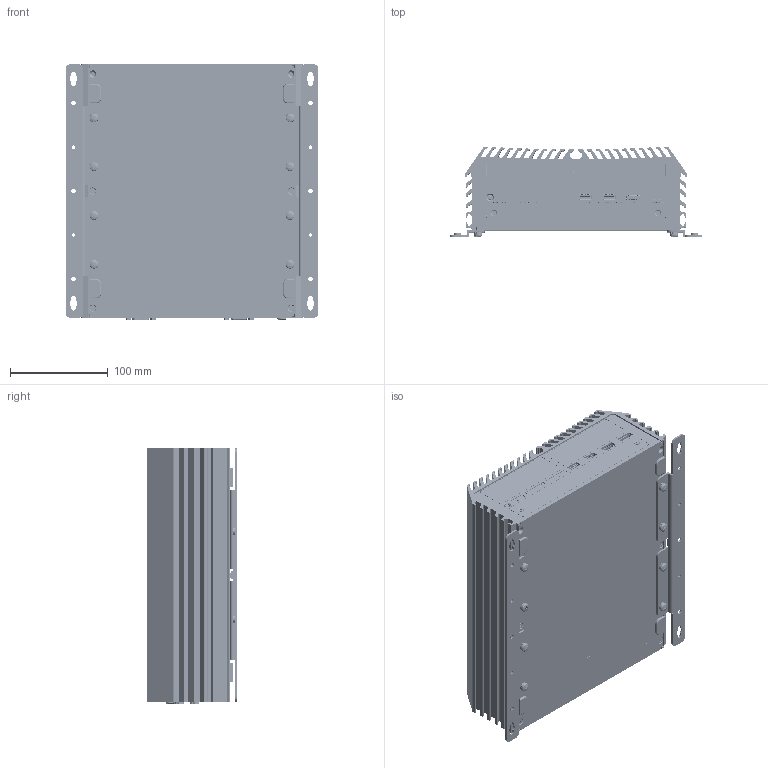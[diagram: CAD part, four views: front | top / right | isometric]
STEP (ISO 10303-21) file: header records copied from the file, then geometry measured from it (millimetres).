
FILE_DESCRIPTION (( 'STEP AP214' ), '1' );
FILE_NAME ('1-DS-1500-¼Ð·Ç-20250203-¥~Æ[.STEP', '2025-04-18T10:05:52', ( '' ), ( '' ), 'SwSTEP 2.0', 'SolidWorks 2014', '' );
FILE_SCHEMA (( 'AUTOMOTIVE_DESIGN' ));
Length unit declared in the file: millimetre
Products named in the file (40): Screw-耐落-沙拉-90-星型-T10-黑-M3x8(M3-N103082260); Screw-耐落-沙拉-120-十字-M3X4(M3-N103042010)_M3*4; DS-MEC KIT-Universal Bracket(M1-ZZZZ3613001); DS-1500-Main Board asm-20250203; DS-1300-Rear Bezel(M1-407130034100)-20200311; DS-100X-Top Cover-銅管(M0-ZZZZ17C0000); Screw-沙拉-120-星型-T10+E型扣-黑-M3x13(M3-1103132270+M3-402004050415); 導熱膏B; Screw-耐落-沙拉-120-星型-T10-黑-M3x5(M3-N103052230); D330H1SL72211DD0; WHDM-19FLBSDR; Rubber Foot Shore(M4-RUFT0100001); 23-D0351500040_CN1_ECHB350R-04P; 23-D0341500040_FAN2_ECH350R_3P_1LAYER; Screw-丸頭-十字-耐落-SW-M5x6(M3-SCREAB00001); 導熱膏A; 23-D0341500030_DC_IN1_5EHDRM-03P_8; DS-1500-PCBA-ASM-20250203; AUTIO_2IN1; Top Cover(M1-407120006300)-DS-1200-金金-20181015; USB-3.0-SMT-T.H(122-0921NX0504); DS-1200-Bottom Cover(M1-407120011200)-20180821; DS-Wall Mount Bracket(M1-ZZZZ3611004); DS-1200-Top Cover asm-金金-20180402; Hole Plugs(M4-RUBR0100004)-M06V0; DS-1300-Front Bezel(M1-407130024100)-20200311; 1-DS-1500-標準-20250203-外觀; USB3.1-2+RJ45-JFM48U1B-BA04(2.5G)(23-D0572300320); DS-1200-Front Bezel Matching Bezel(M1-407120084100); DS-100X-Top Cover-銅管固定片(M1-ZZZZ4600000)-展煜-金金; USB3.0-2L+RJ45-JFM38U1B-B313-4F(23-D0202300320); 23-D0242300200_DP1_DISPLAYPORT; PWR_BTN_TC003; 銅柱-4-4OUNC-4.8_11.8H(M3-COSD6L00000)東莞?輝; D20H1P1PA1X2A111N2 (3D); 23-D0351500040_CN2_MINIDIN_USBX2; DS-1500-Front Open Bezel(M1-407150084100); DS-1200-Bottom Cover asm-20200406; Screw-丸頭-十字-外齒-M5x8(M3-SCREAB00002); DS-1300-Front Bezel-symbol_panel(M0-ZZZZ5C30009)-20200923
Assembly tree (79 placements, depth 4):
  1-DS-1500-標準-20250203-外觀
    DS-1500-PCBA-ASM-20250203
      DS-1500-Main Board asm-20250203
        23-D0351500040_CN1_ECHB350R-04P
        AUTIO_2IN1
        D20H1P1PA1X2A111N2 (3D)
        23-D0351500040_CN2_MINIDIN_USBX2
        D330H1SL72211DD0
        23-D0242300200_DP1_DISPLAYPORT  x2
        23-D0341500040_FAN2_ECH350R_3P_1LAYER
        23-D0341500030_DC_IN1_5EHDRM-03P_8
        PWR_BTN_TC003
        USB-3.0-SMT-T.H(122-0921NX0504)  x2
        WHDM-19FLBSDR
        USB3.0-2L+RJ45-JFM38U1B-B313-4F(23-D0202300320)
        USB3.1-2+RJ45-JFM48U1B-BA04(2.5G)(23-D0572300320)
    DS-1300-Front Bezel(M1-407130024100)-20200311
    DS-1300-Front Bezel-symbol_panel(M0-ZZZZ5C30009)-20200923
    DS-1500-Front Open Bezel(M1-407150084100)
    DS-1200-Front Bezel Matching Bezel(M1-407120084100)  x2
    DS-1300-Rear Bezel(M1-407130034100)-20200311
    DS-MEC KIT-Universal Bracket(M1-ZZZZ3613001)  x2
    DS-1200-Top Cover asm-金金-20180402
      Top Cover(M1-407120006300)-DS-1200-金金-20181015
      導熱膏A
      導熱膏B
      DS-100X-Top Cover-銅管(M0-ZZZZ17C0000)  x2
      DS-100X-Top Cover-銅管固定片(M1-ZZZZ4600000)-展煜-金金  x4
      Screw-耐落-沙拉-120-十字-M3X4(M3-N103042010)_M3*4  x8
    DS-1200-Bottom Cover asm-20200406
      DS-1200-Bottom Cover(M1-407120011200)-20180821
      Rubber Foot Shore(M4-RUFT0100001)  x4
    Screw-耐落-沙拉-120-星型-T10-黑-M3x5(M3-N103052230)  x5
    Screw-耐落-沙拉-90-星型-T10-黑-M3x8(M3-N103082260)  x4
    Screw-沙拉-120-星型-T10+E型扣-黑-M3x13(M3-1103132270+M3-402004050415)  x2
    Screw-丸頭-十字-外齒-M5x8(M3-SCREAB00002)
    Hole Plugs(M4-RUBR0100004)-M06V0  x2
    DS-Wall Mount Bracket(M1-ZZZZ3611004)  x2
    Screw-丸頭-十字-耐落-SW-M5x6(M3-SCREAB00001)  x8
    銅柱-4-4OUNC-4.8_11.8H(M3-COSD6L00000)東莞?輝  x6
Bounding box: 259 x 92.78 x 262.9 mm (x, y, z)
Volume: 1285796.7 mm3; surface area: 727878 mm2
Topology: 100 solids, 300 shells, 22716 faces, 62868 edges, 40695 vertices
Faces by surface type: plane 13939, cylinder 6111, bspline 2331, cone 227, sphere 66, torus 42
Entity records: 794580 total; most frequent: CARTESIAN_POINT 218831, ORIENTED_EDGE 103450, DIRECTION 82735, EDGE_CURVE 51933, LINE 35205, VECTOR 35205, VERTEX_POINT 33639, AXIS2_PLACEMENT_3D 23765
